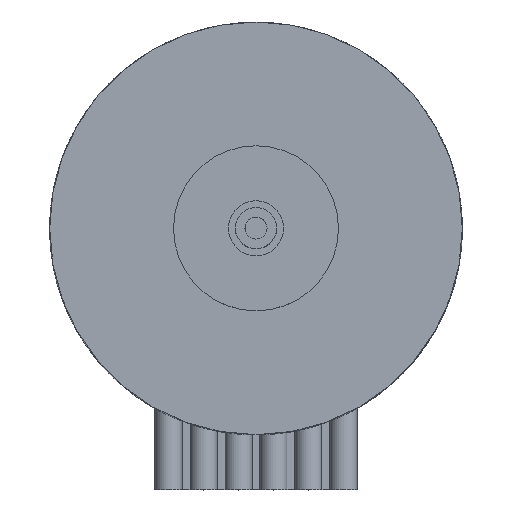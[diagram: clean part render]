
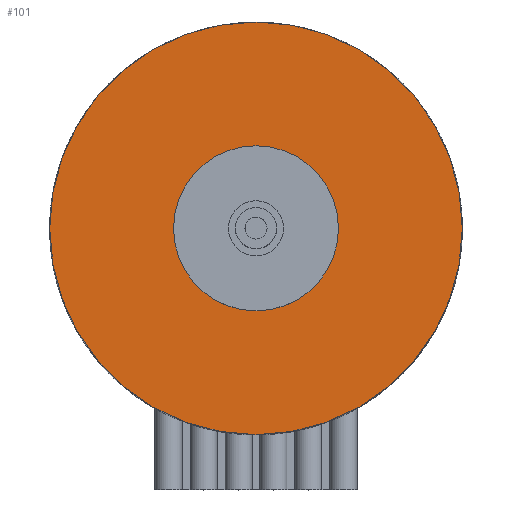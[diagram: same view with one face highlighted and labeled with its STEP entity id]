
A CAD part, top view. The second image highlights one B-rep face of the part: STEP entity #101.
In plain terms, the highlighted planar face has unit normal (0, 0, 1).
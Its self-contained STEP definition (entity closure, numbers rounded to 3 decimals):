
#37=PLANE('',#723);
#65=FACE_BOUND('',#191,.T.);
#66=FACE_BOUND('',#192,.T.);
#101=ADVANCED_FACE('',(#65,#66),#37,.T.);
#191=EDGE_LOOP('',(#341));
#192=EDGE_LOOP('',(#342));
#252=CIRCLE('',#719,7.5);
#254=CIRCLE('',#722,3.);
#341=ORIENTED_EDGE('',*,*,#563,.F.);
#342=ORIENTED_EDGE('',*,*,#561,.F.);
#488=VERTEX_POINT('',#1093);
#490=VERTEX_POINT('',#1098);
#561=EDGE_CURVE('',#488,#488,#252,.T.);
#563=EDGE_CURVE('',#490,#490,#254,.T.);
#719=AXIS2_PLACEMENT_3D('',#1092,#873,#874);
#722=AXIS2_PLACEMENT_3D('',#1097,#879,#880);
#723=AXIS2_PLACEMENT_3D('',#1099,#881,#882);
#873=DIRECTION('',(0.,0.,-1.));
#874=DIRECTION('',(1.,0.,0.));
#879=DIRECTION('',(0.,0.,1.));
#880=DIRECTION('',(1.,0.,0.));
#881=DIRECTION('',(0.,0.,1.));
#882=DIRECTION('',(1.,0.,0.));
#1092=CARTESIAN_POINT('',(0.,0.,0.));
#1093=CARTESIAN_POINT('',(7.5,0.,0.));
#1097=CARTESIAN_POINT('',(0.,0.,0.));
#1098=CARTESIAN_POINT('',(3.,0.,0.));
#1099=CARTESIAN_POINT('',(0.,0.,0.));
